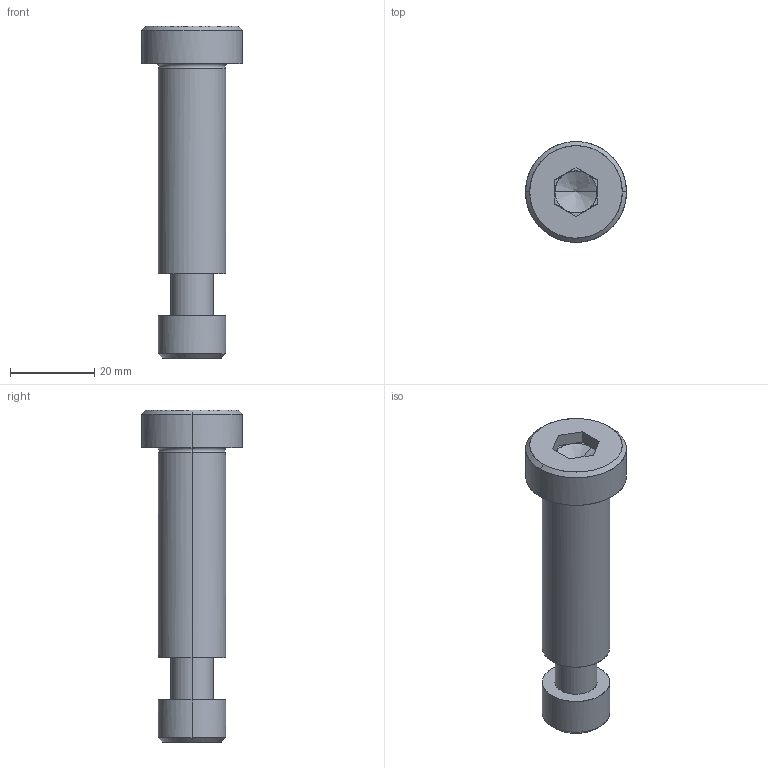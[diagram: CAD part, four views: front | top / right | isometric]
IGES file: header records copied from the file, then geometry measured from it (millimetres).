
Global section: file name: E:\UnigraphicsGraphicData\MISUMI_PRESS-PARTS\IGES\3d_sbtc16-50_05116_r00.igs; native system: NX V5.0; preprocessor: UGS NX IGES V5.0; author: MISUMI; date: 20110105.162447; units: millimetre
Bounding box: 24 x 24 x 79 mm (x, y, z)
Surface area: 6796.2 mm2 (no closed solid volume)
Topology: 0 solids, 0 shells, 52 faces, 286 edges, 282 vertices
Faces by surface type: bspline 52
